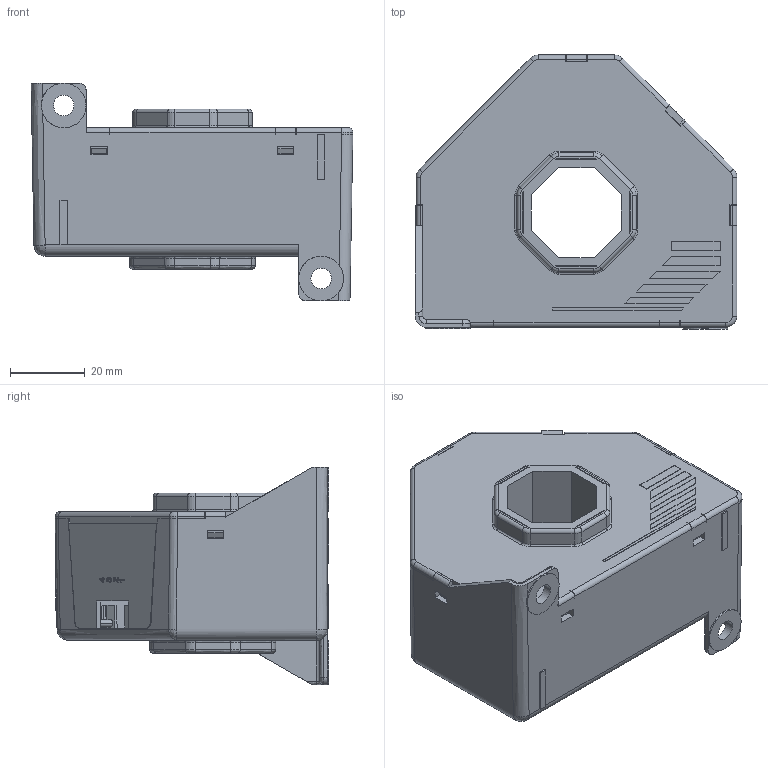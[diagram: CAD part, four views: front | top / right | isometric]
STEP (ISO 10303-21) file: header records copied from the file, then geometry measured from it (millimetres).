
FILE_DESCRIPTION(('OneSpaceDesigner STEP Export'),'2;1');
FILE_NAME('LA305-S.stp','2005-08-03T16:43:16',(''),(''),'OneSpace Designer STEP processor for AP214 (Solid Model)','OneSpace Designer 13.01 05-Feb-2005 (C) CoCreate Software GmbH','');
FILE_SCHEMA(('AUTOMOTIVE_DESIGN { 1 0 10303 214 1 1 1 1 }'));
Products named in the file (2): bornier.1
Assembly tree (1 placements, depth 2):
  bornier.1
    bornier.1
Bounding box: 86.25 x 73.41 x 58.4 mm (x, y, z)
Volume: 45857.9 mm3; surface area: 49042.4 mm2
Topology: 1 solids, 1 shells, 1612 faces, 4397 edges, 2853 vertices
Faces by surface type: plane 1210, cylinder 242, bspline 67, extrusion 51, cone 21, torus 21
Entity records: 57830 total; most frequent: CARTESIAN_POINT 18438, ORIENTED_EDGE 8778, DIRECTION 7172, EDGE_CURVE 4389, VECTOR 3610, LINE 3559, VERTEX_POINT 2853, AXIS2_PLACEMENT_3D 1781
